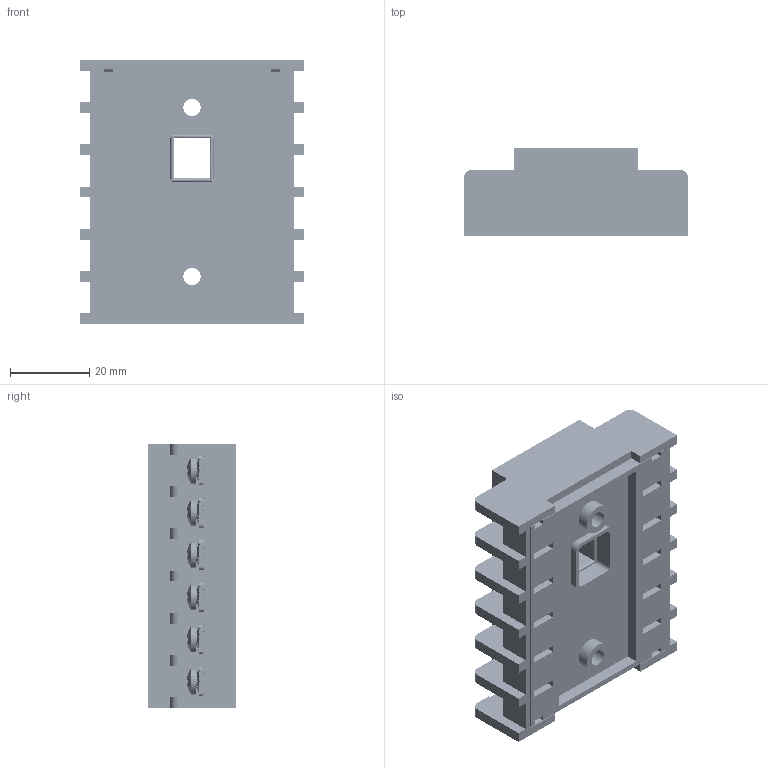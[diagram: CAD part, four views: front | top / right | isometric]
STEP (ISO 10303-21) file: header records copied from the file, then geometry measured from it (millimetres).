
FILE_DESCRIPTION (( 'STEP AP203' ), '1' );
FILE_NAME ('1-10-00050.STEP', '2012-12-27T23:56:13', ( 'kathy' ), ( 'Hewlett-Packard' ), 'SwSTEP 2.0', 'SolidWorks 2007', '' );
FILE_SCHEMA (( 'CONFIG_CONTROL_DESIGN' ));
Products named in the file (6): 1-11-00017_SA-SD12-PC; 1-10-00050; 4-22-00025_SD12-B; 4-32-00001_6-32 5_16 PC.; 4-21-00003_SD12-C; 4-30-00016_OT-3020-A
Assembly tree (27 placements, depth 3):
  1-10-00050
    1-11-00017_SA-SD12-PC
      4-32-00001_6-32 5_16 PC.  x12
      4-30-00016_OT-3020-A  x12
      4-22-00025_SD12-B
      4-21-00003_SD12-C
Bounding box: 56.69 x 22.35 x 66.75 mm (x, y, z)
Volume: 34236.1 mm3; surface area: 50452.6 mm2
Topology: 14 solids, 590 shells, 6366 faces, 19206 edges, 13488 vertices
Faces by surface type: plane 4185, bspline 1321, cylinder 548, cone 312
Entity records: 101387 total; most frequent: CARTESIAN_POINT 39850, ORIENTED_EDGE 13261, DIRECTION 10981, EDGE_CURVE 6750, VECTOR 5169, LINE 5169, VERTEX_POINT 4455, AXIS2_PLACEMENT_3D 2906
